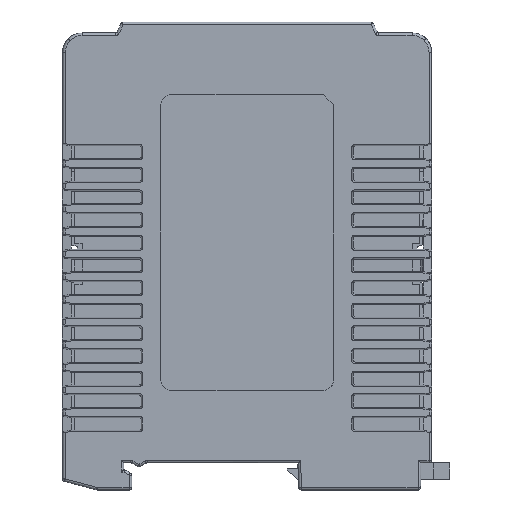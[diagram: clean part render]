
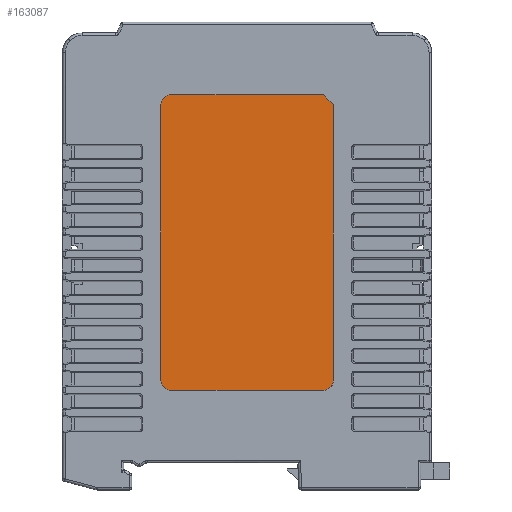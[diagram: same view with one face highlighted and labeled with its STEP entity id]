
A CAD part, front view. The second image highlights one B-rep face of the part: STEP entity #163087.
In plain terms, the highlighted planar face has unit normal (0, -1, 0) as drawn and (0, 0, 1) by its records, which use the part's own axes.
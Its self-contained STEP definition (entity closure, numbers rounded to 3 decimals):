
#133983=DIRECTION('',(0.707,0.707,0.));
#133984=VECTOR('',#133983,2.828);
#133985=CARTESIAN_POINT('',(28.,-17.5,1.4));
#133986=LINE('',#133985,#133984);
#133987=DIRECTION('',(1.,0.,0.));
#133988=VECTOR('',#133987,56.);
#133989=CARTESIAN_POINT('',(-28.,-17.5,1.4));
#133990=LINE('',#133989,#133988);
#133991=CARTESIAN_POINT('',(-28.,-15.5,1.4));
#133992=DIRECTION('',(0.,0.,1.));
#133993=DIRECTION('',(-1.,0.,0.));
#133994=AXIS2_PLACEMENT_3D('',#133991,#133992,#133993);
#133996=DIRECTION('',(0.,-1.,0.));
#133997=VECTOR('',#133996,31.);
#133998=CARTESIAN_POINT('',(-30.,15.5,1.4));
#133999=LINE('',#133998,#133997);
#134000=CARTESIAN_POINT('',(-28.,15.5,1.4));
#134001=DIRECTION('',(0.,0.,1.));
#134002=DIRECTION('',(0.,1.,0.));
#134003=AXIS2_PLACEMENT_3D('',#134000,#134001,#134002);
#134005=DIRECTION('',(-1.,0.,0.));
#134006=VECTOR('',#134005,56.);
#134007=CARTESIAN_POINT('',(28.,17.5,1.4));
#134008=LINE('',#134007,#134006);
#134009=CARTESIAN_POINT('',(28.,15.5,1.4));
#134010=DIRECTION('',(0.,0.,1.));
#134011=DIRECTION('',(1.,0.,0.));
#134012=AXIS2_PLACEMENT_3D('',#134009,#134010,#134011);
#134014=DIRECTION('',(0.,1.,0.));
#134015=VECTOR('',#134014,31.);
#134016=CARTESIAN_POINT('',(30.,-15.5,1.4));
#134017=LINE('',#134016,#134015);
#152915=CARTESIAN_POINT('',(30.,15.5,1.4));
#152916=CARTESIAN_POINT('',(28.,17.5,1.4));
#152917=VERTEX_POINT('',#152915);
#152918=VERTEX_POINT('',#152916);
#152923=CARTESIAN_POINT('',(-30.,-15.5,1.4));
#152924=CARTESIAN_POINT('',(-28.,-17.5,1.4));
#152925=VERTEX_POINT('',#152923);
#152926=VERTEX_POINT('',#152924);
#153553=CARTESIAN_POINT('',(-30.,15.5,1.4));
#153554=VERTEX_POINT('',#153553);
#153555=CARTESIAN_POINT('',(-28.,17.5,1.4));
#153556=VERTEX_POINT('',#153555);
#153558=CARTESIAN_POINT('',(30.,-15.5,1.4));
#153560=VERTEX_POINT('',#153558);
#153562=CARTESIAN_POINT('',(28.,-17.5,1.4));
#153564=VERTEX_POINT('',#153562);
#163066=CARTESIAN_POINT('',(0.,0.,1.4));
#163067=DIRECTION('',(0.,0.,1.));
#163068=DIRECTION('',(1.,0.,0.));
#163069=AXIS2_PLACEMENT_3D('',#163066,#163067,#163068);
#163070=PLANE('',#163069);
#163071=ORIENTED_EDGE('',*,*,#163059,.F.);
#163072=ORIENTED_EDGE('',*,*,#163047,.F.);
#163074=ORIENTED_EDGE('',*,*,#163073,.F.);
#163076=ORIENTED_EDGE('',*,*,#163075,.F.);
#163078=ORIENTED_EDGE('',*,*,#163077,.F.);
#163080=ORIENTED_EDGE('',*,*,#163079,.F.);
#163082=ORIENTED_EDGE('',*,*,#163081,.F.);
#163084=ORIENTED_EDGE('',*,*,#163083,.F.);
#163085=EDGE_LOOP('',(#163071,#163072,#163074,#163076,#163078,#163080,#163082,
#163084));
#163086=FACE_OUTER_BOUND('',#163085,.F.);
#133995=CIRCLE('',#133994,2.);
#134004=CIRCLE('',#134003,2.);
#134013=CIRCLE('',#134012,2.);
#163047=EDGE_CURVE('',#152926,#153564,#133990,.T.);
#163059=EDGE_CURVE('',#153564,#153560,#133986,.T.);
#163073=EDGE_CURVE('',#152925,#152926,#133995,.T.);
#163075=EDGE_CURVE('',#153554,#152925,#133999,.T.);
#163077=EDGE_CURVE('',#153556,#153554,#134004,.T.);
#163079=EDGE_CURVE('',#152918,#153556,#134008,.T.);
#163081=EDGE_CURVE('',#152917,#152918,#134013,.T.);
#163083=EDGE_CURVE('',#153560,#152917,#134017,.T.);
#163087=ADVANCED_FACE('',(#163086),#163070,.T.);
